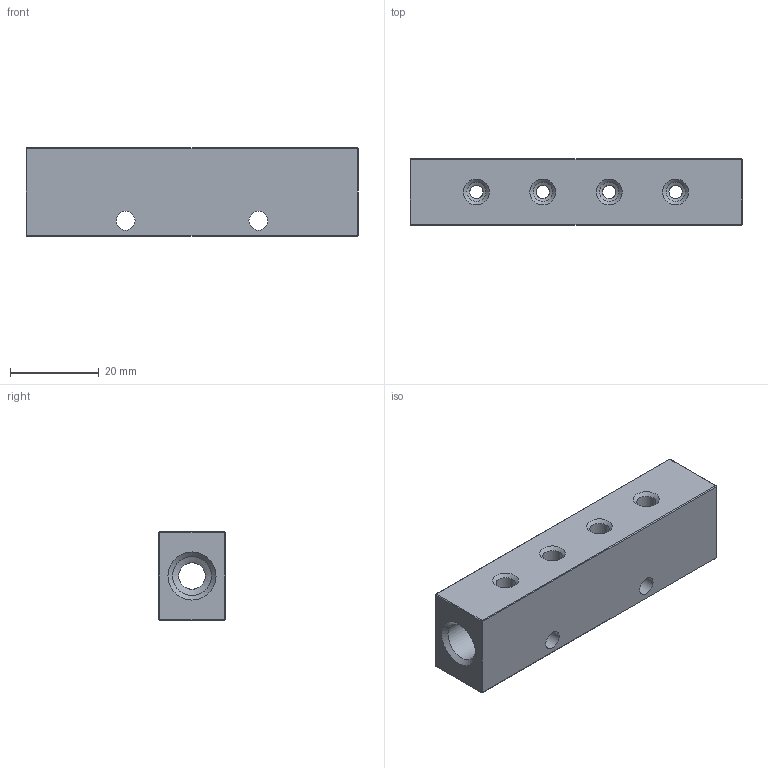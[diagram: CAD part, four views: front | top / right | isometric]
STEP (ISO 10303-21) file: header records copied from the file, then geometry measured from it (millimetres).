
FILE_DESCRIPTION(/* description */ (''),/* implementation_level */ '2;1');
FILE_NAME(/* name */ 'S:\_Tecnico\ArchivioUT\_Disegni3D ingombri\DISEGNI 3D per ingombri\RL\RL5218M544.stp',/* time_stamp */ '2020-02-20T14:07:43+01:00',/* author */ ('UfficioTecnico'),/* organization */ (''),/* preprocessor_version */ 'ST-DEVELOPER v18',/* originating_system */ 'Autodesk Inventor 2020',/* authorisation */ '');
FILE_SCHEMA (('AUTOMOTIVE_DESIGN { 1 0 10303 214 3 1 1 }'));
Length unit declared in the file: millimetre
Products named in the file (1): RL5118M504
Bounding box: 75 x 15 x 20 mm (x, y, z)
Volume: 18493.2 mm3; surface area: 8181.1 mm2
Topology: 1 solids, 1 shells, 67 faces, 169 edges, 104 vertices
Faces by surface type: cylinder 33, cone 20, sphere 8, plane 6
Full cylindrical faces by diameter (mm): 3 x8, 4.25 x2, 4.334 x8, 6 x1, 8.848 x2
Entity records: 2348 total; most frequent: CARTESIAN_POINT 613, DIRECTION 377, ORIENTED_EDGE 338, EDGE_CURVE 169, AXIS2_PLACEMENT_3D 156, VERTEX_POINT 104, EDGE_LOOP 89, CIRCLE 88
